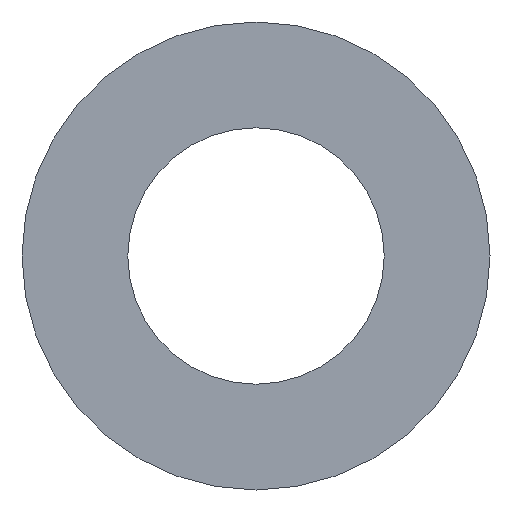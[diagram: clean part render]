
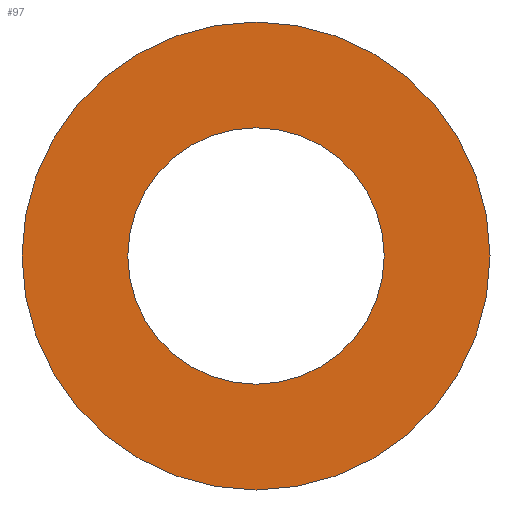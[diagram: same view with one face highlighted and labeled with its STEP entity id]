
A CAD part, front view. The second image highlights one B-rep face of the part: STEP entity #97.
In plain terms, the highlighted planar face has unit normal (0, -1, 0).
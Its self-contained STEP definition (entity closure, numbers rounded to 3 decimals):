
#21=FACE_BOUND('',#40,.T.);
#29=FACE_OUTER_BOUND('',#39,.T.);
#39=EDGE_LOOP('',(#79));
#40=EDGE_LOOP('',(#80));
#53=CIRCLE('',#109,20.);
#54=CIRCLE('',#111,36.5);
#61=VERTEX_POINT('',#162);
#62=VERTEX_POINT('',#165);
#69=EDGE_CURVE('',#61,#61,#53,.T.);
#70=EDGE_CURVE('',#62,#62,#54,.T.);
#79=ORIENTED_EDGE('',*,*,#70,.F.);
#80=ORIENTED_EDGE('',*,*,#69,.T.);
#92=PLANE('',#110);
#97=ADVANCED_FACE('',(#29,#21),#92,.T.);
#109=AXIS2_PLACEMENT_3D('',#163,#131,#132);
#110=AXIS2_PLACEMENT_3D('',#164,#133,#134);
#111=AXIS2_PLACEMENT_3D('',#166,#135,#136);
#131=DIRECTION('center_axis',(0.,1.,0.));
#132=DIRECTION('ref_axis',(1.,0.,0.));
#133=DIRECTION('center_axis',(0.,-1.,0.));
#134=DIRECTION('ref_axis',(0.,0.,-1.));
#135=DIRECTION('center_axis',(0.,1.,0.));
#136=DIRECTION('ref_axis',(1.,0.,0.));
#162=CARTESIAN_POINT('',(-20.,0.,0.));
#163=CARTESIAN_POINT('Origin',(0.,0.,0.));
#164=CARTESIAN_POINT('Origin',(-36.5,0.,0.));
#165=CARTESIAN_POINT('',(-36.5,0.,0.));
#166=CARTESIAN_POINT('Origin',(0.,0.,0.));
